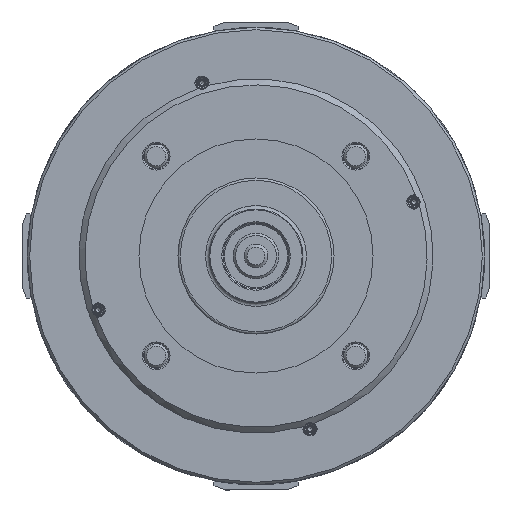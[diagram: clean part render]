
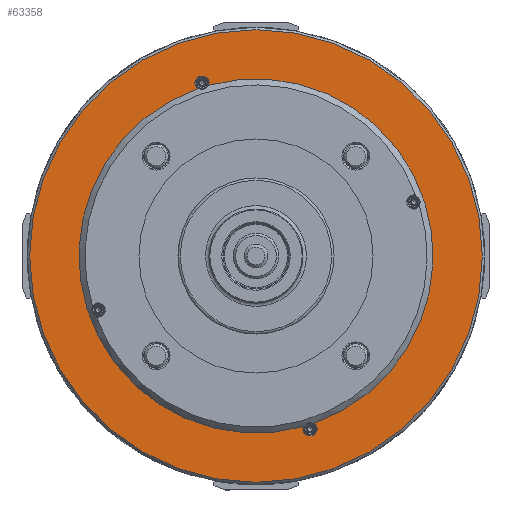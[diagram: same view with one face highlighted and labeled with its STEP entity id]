
A CAD part, left-side view. The second image highlights one B-rep face of the part: STEP entity #63358.
In plain terms, the highlighted planar face has unit normal (-1, 0, 0).
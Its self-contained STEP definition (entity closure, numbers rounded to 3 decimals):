
#3672 = DIRECTION ( 'NONE',  ( 1., 0., 0. ) ) ;
#15802 = EDGE_LOOP ( 'NONE', ( #81097, #105627, #88660, #94426 ) ) ;
#20080 = DIRECTION ( 'NONE',  ( 0., 0., -1. ) ) ;
#20510 = CARTESIAN_POINT ( 'NONE',  ( -130., 45., 144. ) ) ;
#20751 = ORIENTED_EDGE ( 'NONE', *, *, #113300, .F. ) ;
#22283 = EDGE_CURVE ( 'NONE', #44287, #35816, #116106, .T. ) ;
#23333 = CARTESIAN_POINT ( 'NONE',  ( -130., -39.401, -142.14 ) ) ;
#24006 = DIRECTION ( 'NONE',  ( 0., 0., -1. ) ) ;
#26956 = CARTESIAN_POINT ( 'NONE',  ( -130., 0., 0. ) ) ;
#29642 = PLANE ( 'NONE',  #31517 ) ;
#31028 = CARTESIAN_POINT ( 'NONE',  ( -130., 0., -188.5 ) ) ;
#31517 = AXIS2_PLACEMENT_3D ( 'NONE', #68409, #115555, #20080 ) ;
#34600 = VERTEX_POINT ( 'NONE', #52878 ) ;
#35816 = VERTEX_POINT ( 'NONE', #23333 ) ;
#38996 = DIRECTION ( 'NONE',  ( 0., 0., -1. ) ) ;
#40853 = DIRECTION ( 'NONE',  ( 0., 0., -1. ) ) ;
#42598 = CARTESIAN_POINT ( 'NONE',  ( -130., -45., -144. ) ) ;
#44287 = VERTEX_POINT ( 'NONE', #53934 ) ;
#45188 = CARTESIAN_POINT ( 'NONE',  ( -130., 48.544, 139.283 ) ) ;
#45922 = CIRCLE ( 'NONE', #66222, 147.5 ) ;
#52878 = CARTESIAN_POINT ( 'NONE',  ( -130., 39.401, 142.14 ) ) ;
#53841 = AXIS2_PLACEMENT_3D ( 'NONE', #20510, #59305, #40853 ) ;
#53934 = CARTESIAN_POINT ( 'NONE',  ( -130., -48.544, -139.283 ) ) ;
#54735 = EDGE_CURVE ( 'NONE', #35816, #84982, #45922, .T. ) ;
#56068 = AXIS2_PLACEMENT_3D ( 'NONE', #90819, #3672, #24006 ) ;
#59305 = DIRECTION ( 'NONE',  ( 1., 0., 0. ) ) ;
#62126 = CIRCLE ( 'NONE', #56068, 188.5 ) ;
#63358 = ADVANCED_FACE ( 'NONE', ( #86913, #66545 ), #29642, .F. ) ;
#65709 = DIRECTION ( 'NONE',  ( 1., 0., 0. ) ) ;
#66222 = AXIS2_PLACEMENT_3D ( 'NONE', #26956, #65709, #105176 ) ;
#66545 = FACE_BOUND ( 'NONE', #15802, .T. ) ;
#68409 = CARTESIAN_POINT ( 'NONE',  ( -130., -147.5, 0. ) ) ;
#79010 = CARTESIAN_POINT ( 'NONE',  ( -130., 0., 0. ) ) ;
#79971 = VERTEX_POINT ( 'NONE', #31028 ) ;
#81097 = ORIENTED_EDGE ( 'NONE', *, *, #85942, .T. ) ;
#82247 = CIRCLE ( 'NONE', #53841, 5.9 ) ;
#84982 = VERTEX_POINT ( 'NONE', #45188 ) ;
#85942 = EDGE_CURVE ( 'NONE', #34600, #44287, #87956, .T. ) ;
#86913 = FACE_OUTER_BOUND ( 'NONE', #107141, .T. ) ;
#87956 = CIRCLE ( 'NONE', #120454, 147.5 ) ;
#88660 = ORIENTED_EDGE ( 'NONE', *, *, #54735, .T. ) ;
#90819 = CARTESIAN_POINT ( 'NONE',  ( -130., 0., 0. ) ) ;
#94426 = ORIENTED_EDGE ( 'NONE', *, *, #106414, .T. ) ;
#98747 = DIRECTION ( 'NONE',  ( 1., 0., 0. ) ) ;
#105176 = DIRECTION ( 'NONE',  ( 0., 0., -1. ) ) ;
#105627 = ORIENTED_EDGE ( 'NONE', *, *, #22283, .T. ) ;
#106414 = EDGE_CURVE ( 'NONE', #84982, #34600, #82247, .T. ) ;
#107141 = EDGE_LOOP ( 'NONE', ( #20751 ) ) ;
#107992 = AXIS2_PLACEMENT_3D ( 'NONE', #42598, #117049, #118266 ) ;
#113300 = EDGE_CURVE ( 'NONE', #79971, #79971, #62126, .T. ) ;
#115555 = DIRECTION ( 'NONE',  ( 1., 0., 0. ) ) ;
#116106 = CIRCLE ( 'NONE', #107992, 5.9 ) ;
#117049 = DIRECTION ( 'NONE',  ( 1., 0., 0. ) ) ;
#118266 = DIRECTION ( 'NONE',  ( 0., 0., -1. ) ) ;
#120454 = AXIS2_PLACEMENT_3D ( 'NONE', #79010, #98747, #38996 ) ;
